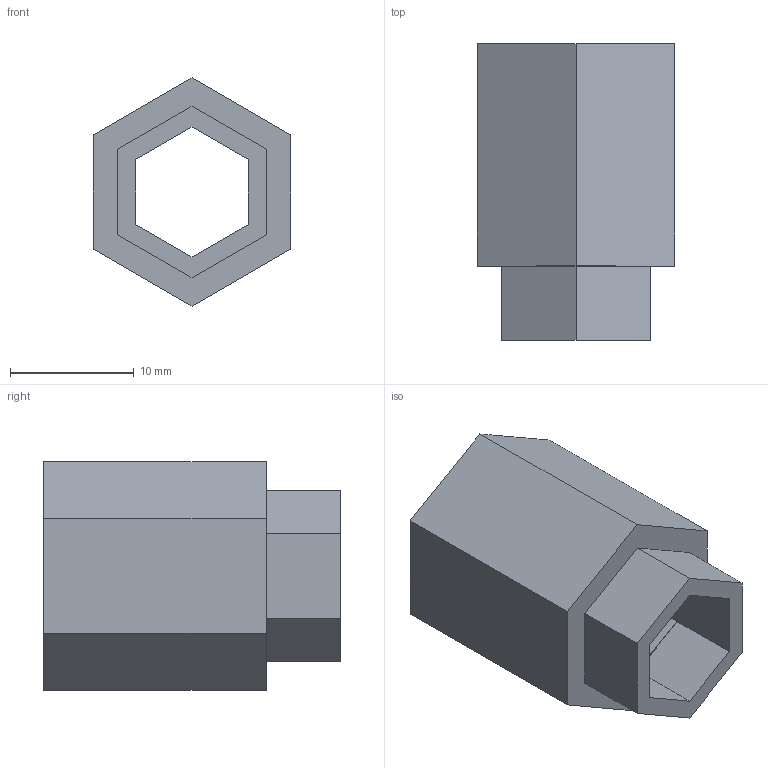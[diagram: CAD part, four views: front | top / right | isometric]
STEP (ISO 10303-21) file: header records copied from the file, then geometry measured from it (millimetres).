
FILE_DESCRIPTION (( 'STEP AP203' ), '1' );
FILE_NAME ('Wheel Spacer.STEP', '2026-01-17T21:10:58', ( '' ), ( '' ), 'SwSTEP 2.0', 'SolidWorks 2026', '' );
FILE_SCHEMA (( 'CONFIG_CONTROL_DESIGN' ));
Length unit declared in the file: millimetre
Products named in the file (1): Wheel Spacer
Bounding box: 16 x 24 x 18.48 mm (x, y, z)
Volume: 2989.2 mm3; surface area: 2309.8 mm2
Topology: 1 solids, 1 shells, 28 faces, 72 edges, 48 vertices
Faces by surface type: plane 28
Entity records: 915 total; most frequent: CARTESIAN_POINT 149, ORIENTED_EDGE 144, DIRECTION 130, EDGE_CURVE 72, LINE 72, VECTOR 72, VERTEX_POINT 48, EDGE_LOOP 32
